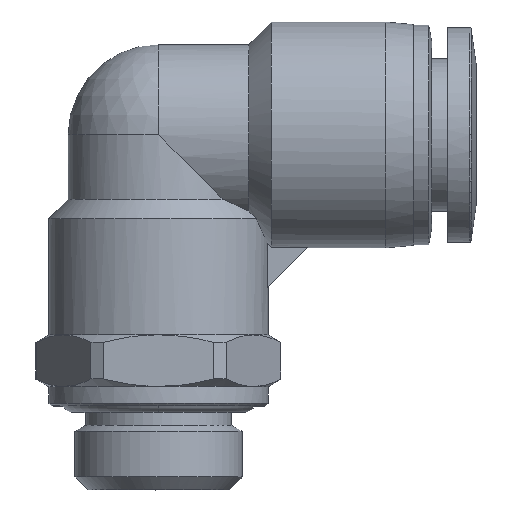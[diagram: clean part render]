
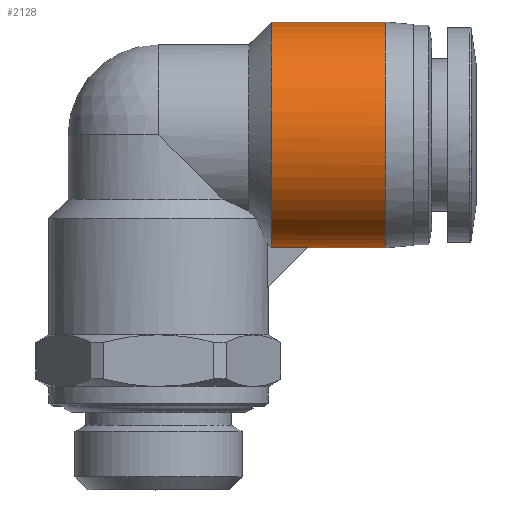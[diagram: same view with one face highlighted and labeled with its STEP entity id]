
A CAD part, top view. The second image highlights one B-rep face of the part: STEP entity #2128.
In plain terms, the highlighted cylindrical face has radius 8.75 mm (diameter 17.5 mm), a partial arc.
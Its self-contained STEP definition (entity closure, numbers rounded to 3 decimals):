
#89 = CARTESIAN_POINT ( 'NONE',  ( 17.55, 6.978, 2.29 ) ) ;
#162 = CARTESIAN_POINT ( 'NONE',  ( 13.15, 15.5, 0. ) ) ;
#177 = CARTESIAN_POINT ( 'NONE',  ( 11.557, 6.807, 1. ) ) ;
#213 = ORIENTED_EDGE ( 'NONE', *, *, #4142, .T. ) ;
#215 = CARTESIAN_POINT ( 'NONE',  ( 8.75, 18.192, 8.398 ) ) ;
#233 = LINE ( 'NONE', #4196, #4230 ) ;
#441 = ORIENTED_EDGE ( 'NONE', *, *, #2141, .F. ) ;
#444 = FACE_OUTER_BOUND ( 'NONE', #1070, .T. ) ;
#492 = CARTESIAN_POINT ( 'NONE',  ( 17.55, 6.75, 0. ) ) ;
#607 = VECTOR ( 'NONE', #765, 1000. ) ;
#619 = CARTESIAN_POINT ( 'NONE',  ( 8.75, 23.223, 4.258 ) ) ;
#642 = CARTESIAN_POINT ( 'NONE',  ( 8.75, 22.619, 5.205 ) ) ;
#678 = CARTESIAN_POINT ( 'NONE',  ( 17.55, 24.25, 0. ) ) ;
#717 = B_SPLINE_CURVE_WITH_KNOTS ( 'NONE', 3,
 ( #975, #1676, #3116, #619, #642, #1026, #1698, #215, #1300, #1375, #3841, #3140, #3536, #4617, #2812, #3189, #4550, #2391 ),
 .UNSPECIFIED., .F., .F.,
 ( 4, 2, 2, 2, 2, 2, 2, 2, 4 ),
 ( 0.5, 0.563, 0.625, 0.688, 0.75, 0.813, 0.875, 0.938, 1. ),
 .UNSPECIFIED. ) ;
#765 = DIRECTION ( 'NONE',  ( 1., 0., 0. ) ) ;
#799 = CARTESIAN_POINT ( 'NONE',  ( 17.55, 7.854, 4.407 ) ) ;
#869 = CARTESIAN_POINT ( 'NONE',  ( 17.55, 16.645, 8.75 ) ) ;
#905 = CARTESIAN_POINT ( 'NONE',  ( 11.5, 6.75, 0.333 ) ) ;
#938 = VERTEX_POINT ( 'NONE', #1711 ) ;
#975 = CARTESIAN_POINT ( 'NONE',  ( 8.75, 24.25, 0. ) ) ;
#1026 = CARTESIAN_POINT ( 'NONE',  ( 8.75, 21.104, 6.81 ) ) ;
#1070 = EDGE_LOOP ( 'NONE', ( #1534, #213, #441, #3921, #1111, #3862 ) ) ;
#1091 = CARTESIAN_POINT ( 'NONE',  ( 11.557, 6.807, 1. ) ) ;
#1111 = ORIENTED_EDGE ( 'NONE', *, *, #3522, .T. ) ;
#1226 = CYLINDRICAL_SURFACE ( 'NONE', #1728, 8.75 ) ;
#1245 = DIRECTION ( 'NONE',  ( 1., 0., 0. ) ) ;
#1300 = CARTESIAN_POINT ( 'NONE',  ( 8.75, 17.103, 8.672 ) ) ;
#1375 = CARTESIAN_POINT ( 'NONE',  ( 8.75, 14.899, 8.799 ) ) ;
#1417 = CARTESIAN_POINT ( 'NONE',  ( 9.686, 6.807, 1. ) ) ;
#1447 = EDGE_CURVE ( 'NONE', #3387, #2049, #2264, .T. ) ;
#1472 = B_SPLINE_CURVE_WITH_KNOTS ( 'NONE', 3,
 ( #4121, #2290, #4079, #4101, #2947, #2591, #3321, #3369, #869, #3716, #1904, #3347, #3693, #2262, #799, #89, #2619, #492 ),
 .UNSPECIFIED., .F., .F.,
 ( 4, 2, 2, 2, 2, 2, 2, 2, 4 ),
 ( 0., 0.062, 0.125, 0.187, 0.25, 0.312, 0.375, 0.438, 0.5 ),
 .UNSPECIFIED. ) ;
#1534 = ORIENTED_EDGE ( 'NONE', *, *, #3090, .F. ) ;
#1676 = CARTESIAN_POINT ( 'NONE',  ( 8.75, 24.25, 1.104 ) ) ;
#1698 = CARTESIAN_POINT ( 'NONE',  ( 8.75, 20.193, 7.467 ) ) ;
#1711 = CARTESIAN_POINT ( 'NONE',  ( 11.5, 6.75, 0. ) ) ;
#1728 = AXIS2_PLACEMENT_3D ( 'NONE', #162, #1245, #2665 ) ;
#1822 = VERTEX_POINT ( 'NONE', #2315 ) ;
#1904 = CARTESIAN_POINT ( 'NONE',  ( 17.55, 13.21, 8.522 ) ) ;
#2025 = DIRECTION ( 'NONE',  ( 1., 0., 0. ) ) ;
#2049 = VERTEX_POINT ( 'NONE', #4265 ) ;
#2128 = ADVANCED_FACE ( 'NONE', ( #444 ), #1226, .T. ) ;
#2141 = EDGE_CURVE ( 'NONE', #3735, #1822, #1472, .T. ) ;
#2182 = CARTESIAN_POINT ( 'NONE',  ( 11.5, 6.75, 0. ) ) ;
#2262 = CARTESIAN_POINT ( 'NONE',  ( 17.55, 8.503, 5.377 ) ) ;
#2264 = B_SPLINE_CURVE_WITH_KNOTS ( 'NONE', 3,
 ( #4322, #1417, #2553, #1091 ),
 .UNSPECIFIED., .F., .F.,
 ( 4, 4 ),
 ( 0., 1. ),
 .UNSPECIFIED. ) ;
#2290 = CARTESIAN_POINT ( 'NONE',  ( 17.55, 24.25, 1.145 ) ) ;
#2315 = CARTESIAN_POINT ( 'NONE',  ( 17.55, 6.75, 0. ) ) ;
#2344 = B_SPLINE_CURVE_WITH_KNOTS ( 'NONE', 3,
 ( #2182, #905, #2657, #177 ),
 .UNSPECIFIED., .F., .F.,
 ( 4, 4 ),
 ( 0.5, 1. ),
 .UNSPECIFIED. ) ;
#2391 = CARTESIAN_POINT ( 'NONE',  ( 8.75, 6.807, 1. ) ) ;
#2553 = CARTESIAN_POINT ( 'NONE',  ( 10.622, 6.807, 1. ) ) ;
#2591 = CARTESIAN_POINT ( 'NONE',  ( 17.55, 20.877, 6.997 ) ) ;
#2619 = CARTESIAN_POINT ( 'NONE',  ( 17.55, 6.75, 1.145 ) ) ;
#2657 = CARTESIAN_POINT ( 'NONE',  ( 11.519, 6.769, 0.667 ) ) ;
#2665 = DIRECTION ( 'NONE',  ( 0., 1., 0. ) ) ;
#2776 = EDGE_CURVE ( 'NONE', #4187, #3735, #233, .T. ) ;
#2812 = CARTESIAN_POINT ( 'NONE',  ( 8.75, 8.314, 5.113 ) ) ;
#2844 = CARTESIAN_POINT ( 'NONE',  ( 13.15, 6.75, 0. ) ) ;
#2866 = CARTESIAN_POINT ( 'NONE',  ( 8.75, 6.807, 1. ) ) ;
#2914 = LINE ( 'NONE', #2844, #607 ) ;
#2947 = CARTESIAN_POINT ( 'NONE',  ( 17.55, 22.497, 5.377 ) ) ;
#3090 = EDGE_CURVE ( 'NONE', #938, #2049, #2344, .T. ) ;
#3116 = CARTESIAN_POINT ( 'NONE',  ( 8.75, 24.039, 2.207 ) ) ;
#3140 = CARTESIAN_POINT ( 'NONE',  ( 8.75, 11.691, 7.954 ) ) ;
#3189 = CARTESIAN_POINT ( 'NONE',  ( 8.75, 7.269, 3.168 ) ) ;
#3321 = CARTESIAN_POINT ( 'NONE',  ( 17.55, 19.907, 7.646 ) ) ;
#3347 = CARTESIAN_POINT ( 'NONE',  ( 17.55, 11.093, 7.646 ) ) ;
#3369 = CARTESIAN_POINT ( 'NONE',  ( 17.55, 17.79, 8.522 ) ) ;
#3387 = VERTEX_POINT ( 'NONE', #2866 ) ;
#3522 = EDGE_CURVE ( 'NONE', #4187, #3387, #717, .T. ) ;
#3536 = CARTESIAN_POINT ( 'NONE',  ( 8.75, 10.711, 7.406 ) ) ;
#3693 = CARTESIAN_POINT ( 'NONE',  ( 17.55, 10.123, 6.997 ) ) ;
#3716 = CARTESIAN_POINT ( 'NONE',  ( 17.55, 14.355, 8.75 ) ) ;
#3735 = VERTEX_POINT ( 'NONE', #678 ) ;
#3841 = CARTESIAN_POINT ( 'NONE',  ( 8.75, 13.785, 8.651 ) ) ;
#3862 = ORIENTED_EDGE ( 'NONE', *, *, #1447, .T. ) ;
#3921 = ORIENTED_EDGE ( 'NONE', *, *, #2776, .F. ) ;
#4079 = CARTESIAN_POINT ( 'NONE',  ( 17.55, 24.022, 2.29 ) ) ;
#4101 = CARTESIAN_POINT ( 'NONE',  ( 17.55, 23.146, 4.407 ) ) ;
#4121 = CARTESIAN_POINT ( 'NONE',  ( 17.55, 24.25, 0. ) ) ;
#4142 = EDGE_CURVE ( 'NONE', #938, #1822, #2914, .T. ) ;
#4187 = VERTEX_POINT ( 'NONE', #4277 ) ;
#4196 = CARTESIAN_POINT ( 'NONE',  ( 13.15, 24.25, 0. ) ) ;
#4230 = VECTOR ( 'NONE', #2025, 1000. ) ;
#4265 = CARTESIAN_POINT ( 'NONE',  ( 11.557, 6.807, 1. ) ) ;
#4277 = CARTESIAN_POINT ( 'NONE',  ( 8.75, 24.25, 0. ) ) ;
#4322 = CARTESIAN_POINT ( 'NONE',  ( 8.75, 6.807, 1. ) ) ;
#4550 = CARTESIAN_POINT ( 'NONE',  ( 8.75, 6.933, 2.096 ) ) ;
#4617 = CARTESIAN_POINT ( 'NONE',  ( 8.75, 9.022, 5.985 ) ) ;
